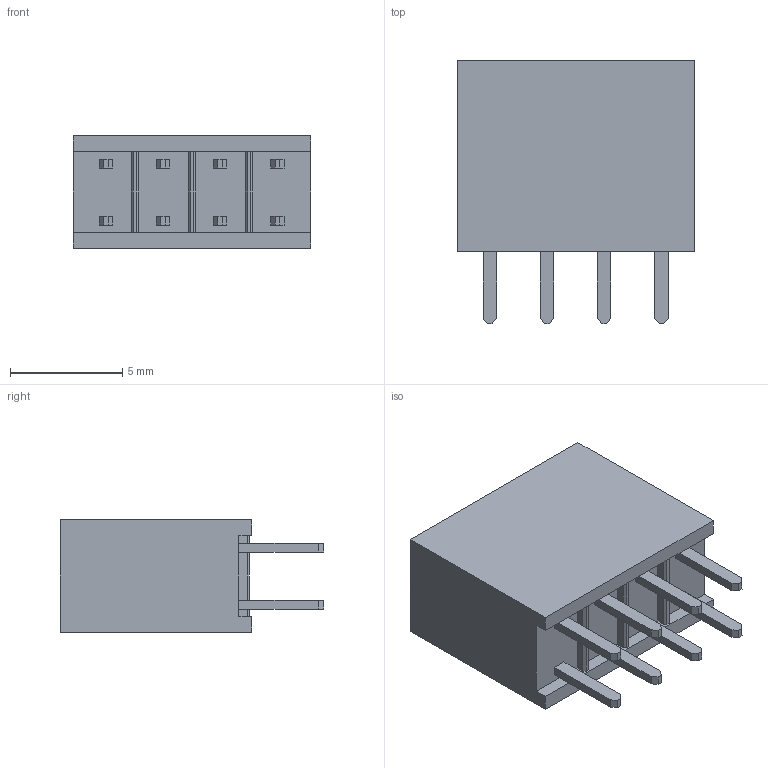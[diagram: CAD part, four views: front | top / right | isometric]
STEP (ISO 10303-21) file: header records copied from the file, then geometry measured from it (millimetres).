
FILE_DESCRIPTION (( 'STEP AP214' ), '1' );
FILE_NAME ('2044-2X04G00SB.STEP', '2021-10-21T01:06:33', ( '' ), ( '' ), 'SwSTEP 2.0', 'SolidWorks 2011', '' );
FILE_SCHEMA (( 'AUTOMOTIVE_DESIGN' ));
Length unit declared in the file: millimetre
Products named in the file (1): 2044-2X04G00SB
Bounding box: 10.56 x 11.7 x 5 mm (x, y, z)
Volume: 430.1 mm3; surface area: 456.3 mm2
Topology: 1 solids, 1 shells, 156 faces, 382 edges, 244 vertices
Faces by surface type: plane 156
Entity records: 6200 total; most frequent: CARTESIAN_POINT 783, ORIENTED_EDGE 764, DIRECTION 696, LINE 382, VECTOR 382, EDGE_CURVE 382, VERTEX_POINT 244, EDGE_LOOP 172
